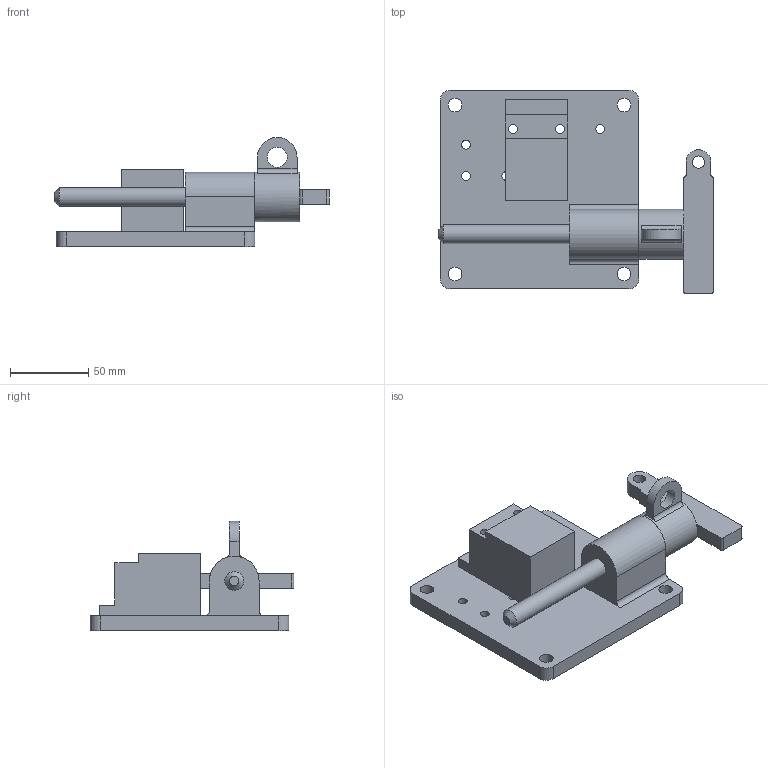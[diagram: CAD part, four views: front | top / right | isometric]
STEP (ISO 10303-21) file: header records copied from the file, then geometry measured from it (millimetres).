
FILE_DESCRIPTION(/* description */ (''),/* implementation_level */ '2;1');
FILE_NAME(/* name */ 'C:\Users\rcarver\Desktop\Tru-LOK pin\Ford-FCA\With Switch\SP12Y125TY00201.stp',/* time_stamp */ '2016-06-21T11:08:25-04:00',/* author */ ('rcarver'),/* organization */ (''),/* preprocessor_version */ 'ST-DEVELOPER v16.5',/* originating_system */ 'Autodesk Inventor 2017',/* authorisation */ '');
FILE_SCHEMA (('AUTOMOTIVE_DESIGN { 1 0 10303 214 3 1 1 }'));
Length unit declared in the file: millimetre
Products named in the file (1): SP12Y125TY00201
Bounding box: 175.62 x 130.18 x 69.85 mm (x, y, z)
Volume: 334035.9 mm3; surface area: 70532.3 mm2
Topology: 3 solids, 3 shells, 69 faces, 193 edges, 132 vertices
Faces by surface type: plane 37, cylinder 31, cone 1
Full cylindrical faces by diameter (mm): 5.588 x2, 5.59 x6, 7.94 x1, 8.74 x4, 12 x1, 12.7 x1, 31.75 x1
Entity records: 2196 total; most frequent: DIRECTION 368, CARTESIAN_POINT 346, ORIENTED_EDGE 320, EDGE_CURVE 160, AXIS2_PLACEMENT_3D 138, EDGE_LOOP 116, VERTEX_POINT 116, LINE 92
